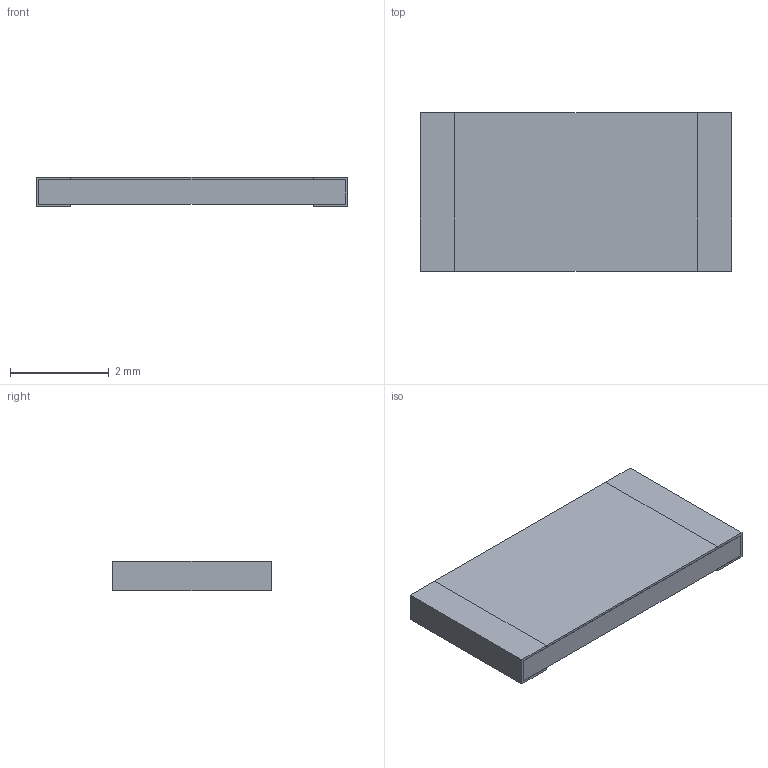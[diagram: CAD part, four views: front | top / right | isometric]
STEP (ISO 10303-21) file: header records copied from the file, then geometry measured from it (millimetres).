
FILE_DESCRIPTION(('STEP AP203'), '1');
FILE_NAME('P1-8B-2512', '', ('UNSPECIFIED'), ('UNSPECIFIED'), 'ASCON STEP Converter 1.6', 'ASCON Math Kernel', '');
FILE_SCHEMA(('CONFIG_CONTROL_DESIGN'));
Length unit declared in the file: millimetre
Bounding box: 6.3 x 3.2 x 0.6 mm (x, y, z)
Volume: 11.3 mm3; surface area: 106.8 mm2
Topology: 4 solids, 5 shells, 51 faces, 123 edges, 82 vertices
Faces by surface type: plane 47, cylinder 4
Entity records: 1937 total; most frequent: CARTESIAN_POINT 257, ORIENTED_EDGE 246, DIRECTION 235, EDGE_CURVE 123, LINE 115, VECTOR 115, VERTEX_POINT 82, AXIS2_PLACEMENT_3D 60
